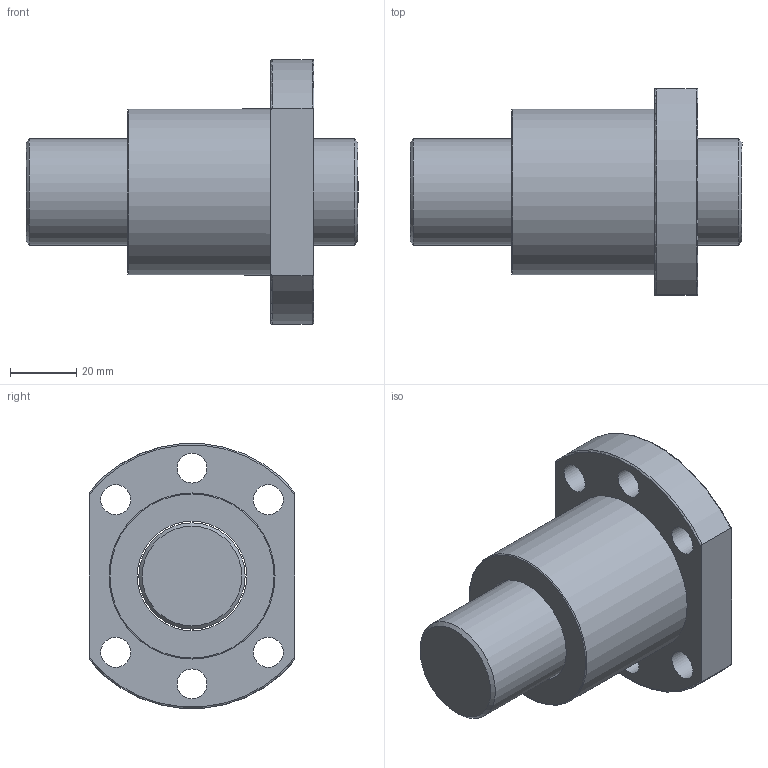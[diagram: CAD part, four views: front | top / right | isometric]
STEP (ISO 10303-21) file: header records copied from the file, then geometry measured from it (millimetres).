
FILE_DESCRIPTION(/* description */ (''),/* implementation_level */ '2;1');
FILE_NAME(/* name */ 'SFS3210',/* time_stamp */ '2007-10-26T11:13:41+08:00',/* author */ (''),/* organization */ (''),/* preprocessor_version */ 'ST-DEVELOPER v9',/* originating_system */ 'UGS - NX 3.0',/* authorisation */ '');
FILE_SCHEMA (('CONFIG_CONTROL_DESIGN'));
Length unit declared in the file: millimetre
Products named in the file (1): jaso37B0hu7s
Bounding box: 100 x 62 x 79.74 mm (x, y, z)
Volume: 162492.2 mm3; surface area: 36039.7 mm2
Topology: 2 solids, 2 shells, 27 faces, 60 edges, 39 vertices
Faces by surface type: cylinder 12, plane 8, torus 5, cone 2
Full cylindrical faces by diameter (mm): 9 x6, 32 x1, 33 x1, 50 x2
Entity records: 936 total; most frequent: CARTESIAN_POINT 258, DIRECTION 126, ORIENTED_EDGE 94, AXIS2_PLACEMENT_3D 59, EDGE_LOOP 56, EDGE_CURVE 47, FACE_BOUND 40, VERTEX_POINT 39
